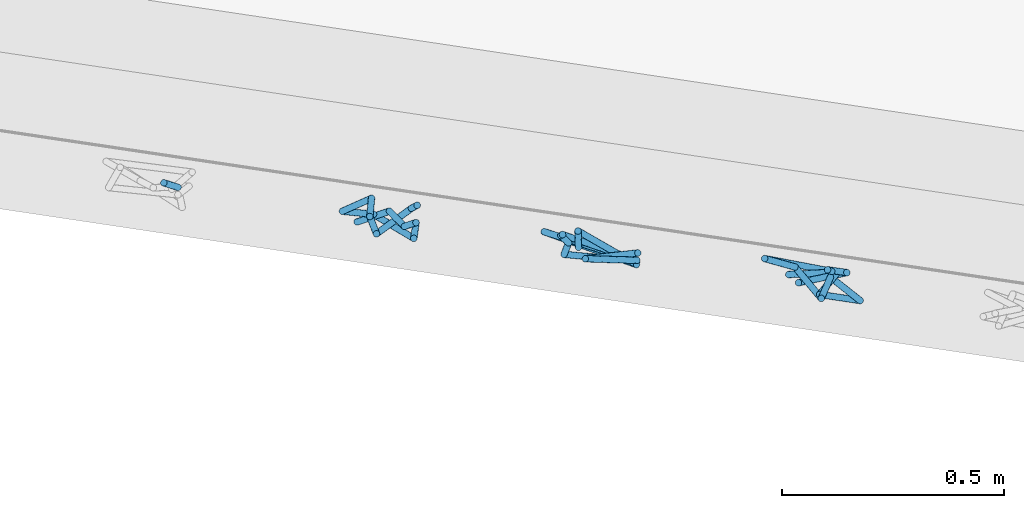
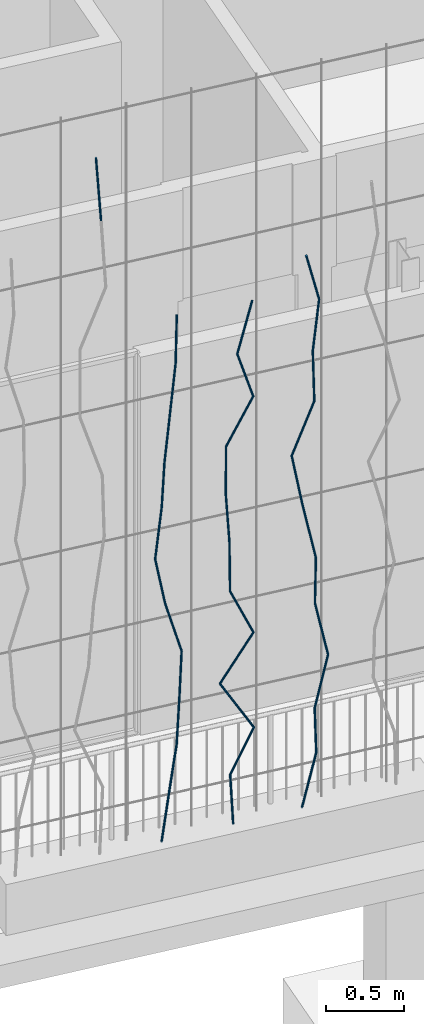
# One storey, part 119 of 143: 34 members, 1 element without a shape of its own.
"""IFC4 building model written with IfcOpenShell, lengths in metres."""

from ifc_helpers import new_model, si_unit, direction, frame, origin_with_axes, place, context, subcontext, project, spatial, circle, extrude, material, material_profile, profile_set, profile_usage, type_object, element, aggregate, save


model = new_model("IFC4")

# Units and contexts
model_context = context("Model", 3, precision=1e-05, world=origin_with_axes(), true_north=direction((0.0, 1.0)))
body_context = subcontext(model_context, "Body", "Model", "MODEL_VIEW")
ifc_project = project(units=[si_unit("VOLUMEUNIT", "CUBIC_METRE"), si_unit("LENGTHUNIT", "METRE"), si_unit("AREAUNIT", "SQUARE_METRE")], contexts=[model_context])

# Site, building, storey
site_placement = place(None, origin_with_axes())
site = spatial("IfcSite", under=ifc_project, at=site_placement, Name="Lares · Rua das Mercês · artigo 4771")
building_placement = place(site_placement, frame((15.0, 9.7, 15.8), z_axis=(0.0, 0.0, 1.0), x_axis=(0.989015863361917, -0.147809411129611, 0.0)))
building = spatial("IfcBuilding", under=site, at=building_placement, Name="Casa Sobreposta")
storey_placement = place(building_placement, origin_with_axes())
storey = spatial("IfcBuildingStorey", under=building, at=storey_placement, Name="00 · Habitação e estacionamento", Elevation=15.8)

# Assembly, members
assembly_placement = place(storey_placement, origin_with_axes())
assembly = element("IfcElementAssembly", 1, at=assembly_placement, inside=storey, Name="Fachada sul e pátio · estrutura e trepadeiras", ObjectType="LIVING_SHADE_TRELLIS", PredefinedType="USERDEFINED")
ifc_material = material(Name="Ramos de trepadeiras", Category="wood")
ifc_material_profile = material_profile(ifc_material, circle(Radius=0.0075))
ifc_profile_set = profile_set([ifc_material_profile], Name="D0.015")
ifc_profile_usage_1 = profile_usage(ifc_profile_set)
member_type = type_object("IfcMemberType", Name="D0.015 / vine_wood", PredefinedType="NOTDEFINED", material=ifc_profile_set)
member_1_placement = place(assembly_placement, frame((9.199402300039, -1.67760846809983, 5.32537169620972), z_axis=(-0.0662661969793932, 0.0107995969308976, 0.997743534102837), x_axis=(0.160850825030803, 0.986978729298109, 0.0)))
member_1 = element("IfcMember", 2, at=member_1_placement, type_object=member_type, material=ifc_profile_usage_1, Name="Trepadeiras · ramo", context=body_context, shape_type="SweptSolid", body=[
    extrude(circle(Radius=0.0075), origin_with_axes(), (0.0, 0.0, 1.0), 0.49866238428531),
])
ifc_profile_usage_2 = profile_usage(ifc_profile_set)
member_2_placement = place(assembly_placement, frame((9.61025777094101, -1.6950336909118, 0.35), z_axis=(0.181835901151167, 0.0919976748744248, 0.97901590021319), x_axis=(0.451447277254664, -0.892297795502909, 0.0)))
member_2 = element("IfcMember", 3, at=member_2_placement, type_object=member_type, material=ifc_profile_usage_2, Name="Trepadeiras · ramo", context=body_context, shape_type="SweptSolid", body=[
    extrude(circle(Radius=0.0075), origin_with_axes(), (0.0, 0.0, 1.0), 0.377933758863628),
])
ifc_profile_usage_3 = profile_usage(ifc_profile_set)
member_3_placement = place(assembly_placement, frame((9.67897969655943, -1.66026466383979, 0.72000315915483), z_axis=(0.103219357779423, -0.0774565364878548, 0.991638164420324), x_axis=(-0.600208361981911, -0.799843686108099, -1.33299173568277e-17)))
member_3 = element("IfcMember", 4, at=member_3_placement, type_object=member_type, material=ifc_profile_usage_3, Name="Trepadeiras · ramo", context=body_context, shape_type="SweptSolid", body=[
    extrude(circle(Radius=0.0075), origin_with_axes(), (0.0, 0.0, 1.0), 0.37312315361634),
])
ifc_profile_usage_4 = profile_usage(ifc_profile_set)
member_4_placement = place(assembly_placement, frame((9.71749322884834, -1.68916549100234, 1.09000631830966), z_axis=(0.0661164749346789, 0.0332706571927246, 0.997257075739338), x_axis=(0.449508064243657, -0.893276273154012, 0.0)))
member_4 = element("IfcMember", 5, at=member_4_placement, type_object=member_type, material=ifc_profile_usage_4, Name="Trepadeiras · ramo", context=body_context, shape_type="SweptSolid", body=[
    extrude(circle(Radius=0.0075), origin_with_axes(), (0.0, 0.0, 1.0), 0.371020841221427),
])
ifc_profile_usage_5 = profile_usage(ifc_profile_set)
member_5_placement = place(assembly_placement, frame((9.7420238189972, -1.67682138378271, 1.46000947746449), z_axis=(0.00123806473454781, -0.0968645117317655, 0.995296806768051), x_axis=(-0.999918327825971, -0.0127803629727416, 0.0)))
member_5 = element("IfcMember", 6, at=member_5_placement, type_object=member_type, material=ifc_profile_usage_5, Name="Trepadeiras · ramo", context=body_context, shape_type="SweptSolid", body=[
    extrude(circle(Radius=0.0075), origin_with_axes(), (0.0, 0.0, 1.0), 0.371751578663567),
])
ifc_profile_usage_6 = profile_usage(ifc_profile_set)
member_6_placement = place(assembly_placement, frame((9.74248407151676, -1.71283091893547, 1.83001263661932), z_axis=(-0.254351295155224, 0.104439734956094, 0.961456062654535), x_axis=(0.379838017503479, 0.925053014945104, 0.0)))
member_6 = element("IfcMember", 7, at=member_6_placement, type_object=member_type, material=ifc_profile_usage_6, Name="Trepadeiras · ramo", context=body_context, shape_type="SweptSolid", body=[
    extrude(circle(Radius=0.0075), origin_with_axes(), (0.0, 0.0, 1.0), 0.384836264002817),
])
ifc_profile_usage_7 = profile_usage(ifc_profile_set)
member_7_placement = place(assembly_placement, frame((9.64460046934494, -1.67263872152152, 2.20001579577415), z_axis=(-0.187379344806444, -0.00905636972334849, 0.982245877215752), x_axis=(-0.0482753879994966, 0.998834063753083, 0.0)))
member_7 = element("IfcMember", 8, at=member_7_placement, type_object=member_type, material=ifc_profile_usage_7, Name="Trepadeiras · ramo", context=body_context, shape_type="SweptSolid", body=[
    extrude(circle(Radius=0.0075), origin_with_axes(), (0.0, 0.0, 1.0), 0.376690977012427),
])
ifc_profile_usage_8 = profile_usage(ifc_profile_set)
member_8_placement = place(assembly_placement, frame((9.57401636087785, -1.67605017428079, 2.57001895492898), z_axis=(0.161141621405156, 0.102376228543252, 0.981607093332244), x_axis=(0.536247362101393, -0.844060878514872, 0.0)))
member_8 = element("IfcMember", 9, at=member_8_placement, type_object=member_type, material=ifc_profile_usage_8, Name="Trepadeiras · ramo", context=body_context, shape_type="SweptSolid", body=[
    extrude(circle(Radius=0.0075), origin_with_axes(), (0.0, 0.0, 1.0), 0.376936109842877),
])
ifc_profile_usage_9 = profile_usage(ifc_profile_set)
member_9_placement = place(assembly_placement, frame((9.63475645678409, -1.63746087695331, 2.94002211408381), z_axis=(0.00596860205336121, -0.110693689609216, 0.993836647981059), x_axis=(-0.998549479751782, -0.0538417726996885, 0.0)))
member_9 = element("IfcMember", 10, at=member_9_placement, type_object=member_type, material=ifc_profile_usage_9, Name="Trepadeiras · ramo", context=body_context, shape_type="SweptSolid", body=[
    extrude(circle(Radius=0.0075), origin_with_axes(), (0.0, 0.0, 1.0), 0.37229776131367),
])
ifc_profile_usage_10 = profile_usage(ifc_profile_set)
member_10_placement = place(assembly_placement, frame((9.63697855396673, -1.67867188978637, 3.31002527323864), z_axis=(0.0552654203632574, -0.097749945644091, 0.993675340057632), x_axis=(-0.870503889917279, -0.492161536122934, 0.0)))
member_10 = element("IfcMember", 11, at=member_10_placement, type_object=member_type, material=ifc_profile_usage_10, Name="Trepadeiras · ramo", context=body_context, shape_type="SweptSolid", body=[
    extrude(circle(Radius=0.0075), origin_with_axes(), (0.0, 0.0, 1.0), 0.372358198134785),
])
ifc_profile_usage_11 = profile_usage(ifc_profile_set)
member_11_placement = place(assembly_placement, frame((9.65755708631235, -1.71506988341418, 3.68002843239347), z_axis=(0.181682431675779, 0.179110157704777, 0.966907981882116), x_axis=(0.702047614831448, -0.712130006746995, 0.0)))
member_11 = element("IfcMember", 12, at=member_11_placement, type_object=member_type, material=ifc_profile_usage_11, Name="Trepadeiras · ramo", context=body_context, shape_type="SweptSolid", body=[
    extrude(circle(Radius=0.0075), origin_with_axes(), (0.0, 0.0, 1.0), 0.382666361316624),
])
ifc_profile_usage_12 = profile_usage(ifc_profile_set)
member_12_placement = place(assembly_placement, frame((9.72708084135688, -1.64653045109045, 4.0500315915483), z_axis=(0.0314138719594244, 0.0234221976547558, 0.999231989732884), x_axis=(0.999506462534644, -0.000736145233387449, -0.0314052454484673)))
member_12 = element("IfcMember", 13, at=member_12_placement, type_object=member_type, material=ifc_profile_usage_12, Name="Trepadeiras · ramo", context=body_context, shape_type="SweptSolid", body=[
    extrude(circle(Radius=0.0075), origin_with_axes(), (0.0, 0.0, 1.0), 0.370287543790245),
])
ifc_profile_usage_13 = profile_usage(ifc_profile_set)
member_13_placement = place(assembly_placement, frame((10.1127758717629, -1.67777790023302, 0.35), z_axis=(-0.0178101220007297, 0.0972106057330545, 0.995104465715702), x_axis=(0.983627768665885, 0.180212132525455, 0.0)))
member_13 = element("IfcMember", 14, at=member_13_placement, type_object=member_type, material=ifc_profile_usage_13, Name="Trepadeiras · ramo", context=body_context, shape_type="SweptSolid", body=[
    extrude(circle(Radius=0.0075), origin_with_axes(), (0.0, 0.0, 1.0), 0.372215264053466),
])
ifc_profile_usage_14 = profile_usage(ifc_profile_set)
member_14_placement = place(assembly_placement, frame((10.1061466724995, -1.64159462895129, 0.720393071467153), z_axis=(0.354526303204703, -0.138601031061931, 0.924716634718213), x_axis=(-0.36411078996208, -0.931355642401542, 0.0)))
member_14 = element("IfcMember", 15, at=member_14_placement, type_object=member_type, material=ifc_profile_usage_14, Name="Trepadeiras · ramo", context=body_context, shape_type="SweptSolid", body=[
    extrude(circle(Radius=0.0075), origin_with_axes(), (0.0, 0.0, 1.0), 0.400547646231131),
])
ifc_profile_usage_15 = profile_usage(ifc_profile_set)
member_15_placement = place(assembly_placement, frame((10.2481513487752, -1.69711094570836, 1.09078614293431), z_axis=(-0.504523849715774, 0.0987501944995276, 0.857731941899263), x_axis=(0.192084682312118, 0.98137835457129, 0.0)))
member_15 = element("IfcMember", 16, at=member_15_placement, type_object=member_type, material=ifc_profile_usage_15, Name="Trepadeiras · ramo", context=body_context, shape_type="SweptSolid", body=[
    extrude(circle(Radius=0.0075), origin_with_axes(), (0.0, 0.0, 1.0), 0.431828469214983),
])
ifc_profile_usage_16 = profile_usage(ifc_profile_set)
member_16_placement = place(assembly_placement, frame((10.03028358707, -1.65446780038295, 1.46117921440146), z_axis=(0.505500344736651, -0.0809606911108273, 0.859019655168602), x_axis=(-0.158144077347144, -0.987416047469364, 0.0)))
member_16 = element("IfcMember", 17, at=member_16_placement, type_object=member_type, material=ifc_profile_usage_16, Name="Trepadeiras · ramo", context=body_context, shape_type="SweptSolid", body=[
    extrude(circle(Radius=0.0075), origin_with_axes(), (0.0, 0.0, 1.0), 0.431181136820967),
])
ifc_profile_usage_17 = profile_usage(ifc_profile_set)
member_17_placement = place(assembly_placement, frame((10.2482458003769, -1.68937652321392, 1.83157228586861), z_axis=(-0.407442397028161, -0.0220574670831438, 0.91296449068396), x_axis=(-0.0540572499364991, 0.998537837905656, 0.0)))
member_17 = element("IfcMember", 18, at=member_17_placement, type_object=member_type, material=ifc_profile_usage_17, Name="Trepadeiras · ramo", context=body_context, shape_type="SweptSolid", body=[
    extrude(circle(Radius=0.0075), origin_with_axes(), (0.0, 0.0, 1.0), 0.405703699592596),
])
ifc_profile_usage_18 = profile_usage(ifc_profile_set)
member_18_placement = place(assembly_placement, frame((10.0829449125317, -1.6983253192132, 2.20196535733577), z_axis=(0.0168158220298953, 0.0729273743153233, 0.997195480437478), x_axis=(0.974430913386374, -0.224687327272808, 0.0)))
member_18 = element("IfcMember", 19, at=member_18_placement, type_object=member_type, material=ifc_profile_usage_18, Name="Trepadeiras · ramo", context=body_context, shape_type="SweptSolid", body=[
    extrude(circle(Radius=0.0075), origin_with_axes(), (0.0, 0.0, 1.0), 0.371434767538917),
])
ifc_profile_usage_19 = profile_usage(ifc_profile_set)
member_19_placement = place(assembly_placement, frame((10.0891908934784, -1.67123755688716, 2.57235842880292), z_axis=(-0.0535324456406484, 0.0374666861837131, 0.997862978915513), x_axis=(0.573400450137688, 0.819275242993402, 0.0)))
member_19 = element("IfcMember", 20, at=member_19_placement, type_object=member_type, material=ifc_profile_usage_19, Name="Trepadeiras · ramo", context=body_context, shape_type="SweptSolid", body=[
    extrude(circle(Radius=0.0075), origin_with_axes(), (0.0, 0.0, 1.0), 0.371186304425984),
])
ifc_profile_usage_20 = profile_usage(ifc_profile_set)
member_20_placement = place(assembly_placement, frame((10.0693203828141, -1.65733043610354, 2.94275150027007), z_axis=(0.00942132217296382, 0.00713172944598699, 0.999930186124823), x_axis=(0.999955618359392, -6.71933029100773e-05, -0.00942108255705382)))
member_20 = element("IfcMember", 21, at=member_20_placement, type_object=member_type, material=ifc_profile_usage_20, Name="Trepadeiras · ramo", context=body_context, shape_type="SweptSolid", body=[
    extrude(circle(Radius=0.0075), origin_with_axes(), (0.0, 0.0, 1.0), 0.370418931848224),
])
ifc_profile_usage_21 = profile_usage(ifc_profile_set)
member_21_placement = place(assembly_placement, frame((10.07281021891, -1.65468870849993, 3.31314457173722), z_axis=(0.424990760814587, -0.0796342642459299, 0.90168799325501), x_axis=(-0.184173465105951, -0.982893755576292, 0.0)))
member_21 = element("IfcMember", 22, at=member_21_placement, type_object=member_type, material=ifc_profile_usage_21, Name="Trepadeiras · ramo", context=body_context, shape_type="SweptSolid", body=[
    extrude(circle(Radius=0.0075), origin_with_axes(), (0.0, 0.0, 1.0), 0.410777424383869),
])
ifc_profile_usage_22 = profile_usage(ifc_profile_set)
member_22_placement = place(assembly_placement, frame((10.2473868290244, -1.68740066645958, 3.68353764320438), z_axis=(-0.297817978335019, -0.0352407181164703, 0.9539719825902), x_axis=(-0.117509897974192, 0.993071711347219, 0.0)))
member_22 = element("IfcMember", 23, at=member_22_placement, type_object=member_type, material=ifc_profile_usage_22, Name="Trepadeiras · ramo", context=body_context, shape_type="SweptSolid", body=[
    extrude(circle(Radius=0.0075), origin_with_axes(), (0.0, 0.0, 1.0), 0.388264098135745),
])
ifc_profile_usage_23 = profile_usage(ifc_profile_set)
member_23_placement = place(assembly_placement, frame((10.1317548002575, -1.70108337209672, 4.05393071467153), z_axis=(0.296227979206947, 0.07819125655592, 0.951911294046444), x_axis=(0.255215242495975, -0.96688426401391, 0.0)))
member_23 = element("IfcMember", 24, at=member_23_placement, type_object=member_type, material=ifc_profile_usage_23, Name="Trepadeiras · ramo", context=body_context, shape_type="SweptSolid", body=[
    extrude(circle(Radius=0.0075), origin_with_axes(), (0.0, 0.0, 1.0), 0.389104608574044),
])
ifc_profile_usage_24 = profile_usage(ifc_profile_set)
member_24_placement = place(assembly_placement, frame((10.590649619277, -1.66855686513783, 0.35), z_axis=(0.264650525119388, 0.0531521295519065, 0.962878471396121), x_axis=(0.196906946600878, -0.980422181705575, 0.0)))
member_24 = element("IfcMember", 25, at=member_24_placement, type_object=member_type, material=ifc_profile_usage_24, Name="Trepadeiras · ramo", context=body_context, shape_type="SweptSolid", body=[
    extrude(circle(Radius=0.0075), origin_with_axes(), (0.0, 0.0, 1.0), 0.409890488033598),
])
ifc_profile_usage_25 = profile_usage(ifc_profile_set)
member_25_placement = place(assembly_placement, frame((10.6991273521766, -1.64677031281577, 0.7446747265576), z_axis=(-0.0820644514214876, -0.139915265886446, 0.986756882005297), x_axis=(-0.862576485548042, 0.505926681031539, 0.0)))
member_25 = element("IfcMember", 26, at=member_25_placement, type_object=member_type, material=ifc_profile_usage_25, Name="Trepadeiras · ramo", context=body_context, shape_type="SweptSolid", body=[
    extrude(circle(Radius=0.0075), origin_with_axes(), (0.0, 0.0, 1.0), 0.399971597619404),
])
ifc_profile_usage_26 = profile_usage(ifc_profile_set)
member_26_placement = place(assembly_placement, frame((10.6663039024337, -1.70273244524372, 1.1393494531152), z_axis=(0.228028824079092, 0.000120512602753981, 0.973654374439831), x_axis=(0.000528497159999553, -0.999999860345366, 0.0)))
member_26 = element("IfcMember", 27, at=member_26_placement, type_object=member_type, material=ifc_profile_usage_26, Name="Trepadeiras · ramo", context=body_context, shape_type="SweptSolid", body=[
    extrude(circle(Radius=0.0075), origin_with_axes(), (0.0, 0.0, 1.0), 0.40535403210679),
])
ifc_profile_usage_27 = profile_usage(ifc_profile_set)
member_27_placement = place(assembly_placement, frame((10.7587363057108, -1.70268359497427, 1.5340241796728), z_axis=(-0.183407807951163, 0.104798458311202, 0.977434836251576), x_axis=(0.496117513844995, 0.868255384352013, 0.0)))
member_27 = element("IfcMember", 28, at=member_27_placement, type_object=member_type, material=ifc_profile_usage_27, Name="Trepadeiras · ramo", context=body_context, shape_type="SweptSolid", body=[
    extrude(circle(Radius=0.0075), origin_with_axes(), (0.0, 0.0, 1.0), 0.403786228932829),
])
ifc_profile_usage_28 = profile_usage(ifc_profile_set)
member_28_placement = place(assembly_placement, frame((10.6846787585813, -1.66036742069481, 1.9286989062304), z_axis=(-0.0335710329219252, -0.126691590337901, 0.991373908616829), x_axis=(-0.966639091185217, 0.256142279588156, 0.0)))
member_28 = element("IfcMember", 29, at=member_28_placement, type_object=member_type, material=ifc_profile_usage_28, Name="Trepadeiras · ramo", context=body_context, shape_type="SweptSolid", body=[
    extrude(circle(Radius=0.0075), origin_with_axes(), (0.0, 0.0, 1.0), 0.398108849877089),
])
ifc_profile_usage_29 = profile_usage(ifc_profile_set)
member_29_placement = place(assembly_placement, frame((10.6713138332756, -1.71080446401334, 2.323373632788), z_axis=(-0.170517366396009, 0.151109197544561, 0.973699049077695), x_axis=(0.663230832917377, 0.748414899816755, 0.0)))
member_29 = element("IfcMember", 30, at=member_29_placement, type_object=member_type, material=ifc_profile_usage_29, Name="Trepadeiras · ramo", context=body_context, shape_type="SweptSolid", body=[
    extrude(circle(Radius=0.0075), origin_with_axes(), (0.0, 0.0, 1.0), 0.405335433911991),
])
ifc_profile_usage_30 = profile_usage(ifc_profile_set)
member_30_placement = place(assembly_placement, frame((10.6021971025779, -1.64955455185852, 2.7180483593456), z_axis=(-0.175755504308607, 0.0216898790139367, 0.984194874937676), x_axis=(0.122480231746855, 0.992470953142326, 0.0)))
member_30 = element("IfcMember", 31, at=member_30_placement, type_object=member_type, material=ifc_profile_usage_30, Name="Trepadeiras · ramo", context=body_context, shape_type="SweptSolid", body=[
    extrude(circle(Radius=0.0075), origin_with_axes(), (0.0, 0.0, 1.0), 0.401012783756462),
])
ifc_profile_usage_31 = profile_usage(ifc_profile_set)
member_31_placement = place(assembly_placement, frame((10.5317168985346, -1.6408566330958, 3.1127230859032), z_axis=(0.363053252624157, -0.0146242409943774, 0.931653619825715), x_axis=(-0.0402486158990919, -0.99918969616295, 0.0)))
member_31 = element("IfcMember", 32, at=member_31_placement, type_object=member_type, material=ifc_profile_usage_31, Name="Trepadeiras · ramo", context=body_context, shape_type="SweptSolid", body=[
    extrude(circle(Radius=0.0075), origin_with_axes(), (0.0, 0.0, 1.0), 0.423628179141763),
])
ifc_profile_usage_32 = profile_usage(ifc_profile_set)
member_32_placement = place(assembly_placement, frame((10.6855164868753, -1.64705187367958, 3.5073978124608), z_axis=(-0.0246994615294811, 0.00534946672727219, 0.999680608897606), x_axis=(0.999694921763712, 0.00013216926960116, 0.0246991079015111)))
member_32 = element("IfcMember", 33, at=member_32_placement, type_object=member_type, material=ifc_profile_usage_32, Name="Trepadeiras · ramo", context=body_context, shape_type="SweptSolid", body=[
    extrude(circle(Radius=0.0075), origin_with_axes(), (0.0, 0.0, 1.0), 0.394800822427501),
])
ifc_profile_usage_33 = profile_usage(ifc_profile_set)
member_33_placement = place(assembly_placement, frame((10.6757651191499, -1.6449398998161, 3.9020725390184), z_axis=(0.110635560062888, 0.000545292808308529, 0.993860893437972), x_axis=(0.00492867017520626, -0.99998785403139, 0.0)))
member_33 = element("IfcMember", 34, at=member_33_placement, type_object=member_type, material=ifc_profile_usage_33, Name="Trepadeiras · ramo", context=body_context, shape_type="SweptSolid", body=[
    extrude(circle(Radius=0.0075), origin_with_axes(), (0.0, 0.0, 1.0), 0.397112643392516),
])
ifc_profile_usage_34 = profile_usage(ifc_profile_set)
member_34_placement = place(assembly_placement, frame((10.7196998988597, -1.64472335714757, 4.296747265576), z_axis=(-0.254491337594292, -0.0944672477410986, 0.962450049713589), x_axis=(-0.347998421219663, 0.937495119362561, 0.0)))
member_34 = element("IfcMember", 35, at=member_34_placement, type_object=member_type, material=ifc_profile_usage_34, Name="Trepadeiras · ramo", context=body_context, shape_type="SweptSolid", body=[
    extrude(circle(Radius=0.0075), origin_with_axes(), (0.0, 0.0, 1.0), 0.410072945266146),
])
aggregate(assembly, [member_1, member_2, member_3, member_4, member_5, member_6, member_7, member_8, member_9, member_10, member_11, member_12, member_13, member_14, member_15, member_16, member_17, member_18, member_19, member_20, member_21, member_22, member_23, member_24, member_25, member_26, member_27, member_28, member_29, member_30, member_31, member_32, member_33, member_34])

save(model, "model.ifc")
